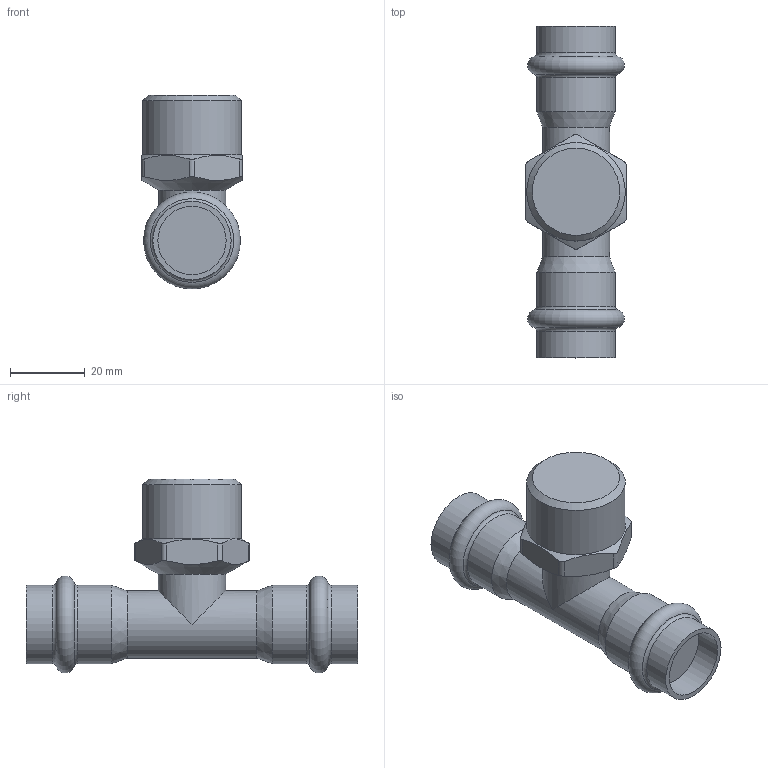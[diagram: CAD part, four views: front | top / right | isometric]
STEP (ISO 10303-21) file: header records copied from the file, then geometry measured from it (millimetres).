
FILE_DESCRIPTION(('STEP AP203'), '1');
FILE_NAME('VTi.933.I.180518', '', ('UNSPECIFIED'), ('UNSPECIFIED'), 'C3D Converter', 'C3D Toolkit', '');
FILE_SCHEMA(('CONFIG_CONTROL_DESIGN'));
Length unit declared in the file: millimetre
Bounding box: 27 x 89 x 51.99 mm (x, y, z)
Volume: 40479.8 mm3; surface area: 10504.4 mm2
Topology: 1 solids, 1 shells, 37 faces, 85 edges, 52 vertices
Faces by surface type: cylinder 15, plane 11, torus 6, cone 5
Full cylindrical faces by diameter (mm): 18 x2, 18.3 x2, 21 x4, 26.441 x1
Entity records: 1769 total; most frequent: CARTESIAN_POINT 1023, DIRECTION 132, ORIENTED_EDGE 128, EDGE_CURVE 64, AXIS2_PLACEMENT_3D 60, EDGE_LOOP 60, VERTEX_POINT 52, ADVANCED_FACE 37
